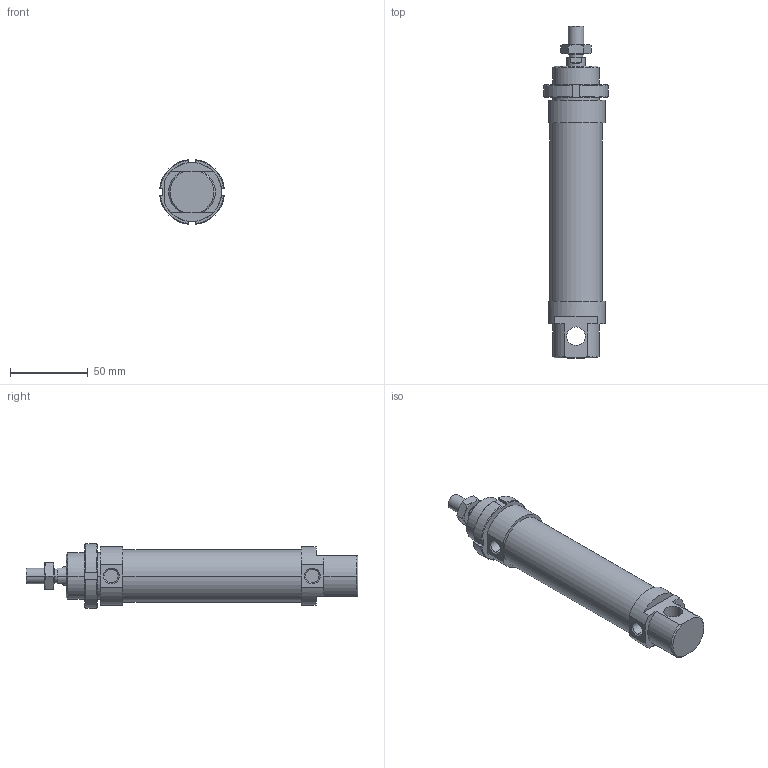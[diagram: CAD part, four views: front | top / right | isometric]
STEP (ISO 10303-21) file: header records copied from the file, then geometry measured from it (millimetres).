
FILE_DESCRIPTION((''),'2;1');
FILE_NAME('I:\DOC-EDP\Lib-3d\1200\CILINDRI\1280\1280_32_0075.stp','2003-04-07T19:04:20',('maffial1'),(''),'Autodesk Inventor (R) 6.0','Autodesk Inventor (R) 6.0','');
FILE_SCHEMA(('AUTOMOTIVE_DESIGN { 1 0 10303 214 1 1 1 1 }'));
Length unit declared in the file: millimetre
Products named in the file (5): 1280_32_0075; S1280_32_75; 1200_32_05; 1200_32_06; C1280_32_75
Assembly tree (4 placements, depth 2):
  1280_32_0075
    S1280_32_75
    1200_32_05
    1200_32_06
    C1280_32_75
Bounding box: 41.7 x 214 x 41.7 mm (x, y, z)
Volume: 168194 mm3; surface area: 37068.6 mm2
Topology: 4 solids, 4 shells, 122 faces, 286 edges, 180 vertices
Faces by surface type: plane 44, cone 32, cylinder 26, bspline 20
Entity records: 3831 total; most frequent: CARTESIAN_POINT 997, DIRECTION 582, ORIENTED_EDGE 572, EDGE_CURVE 286, AXIS2_PLACEMENT_3D 229, VERTEX_POINT 180, EDGE_LOOP 136, VECTOR 124
